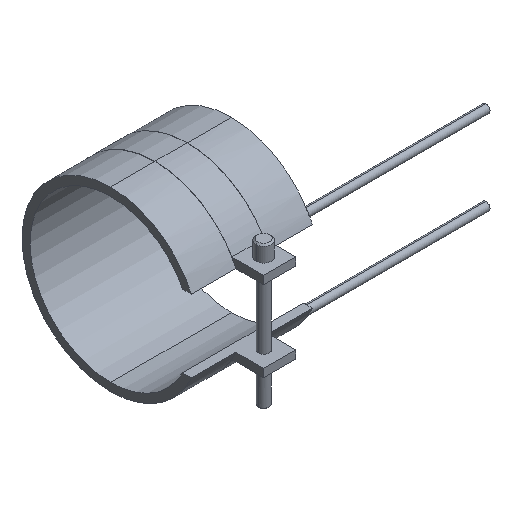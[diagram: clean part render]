
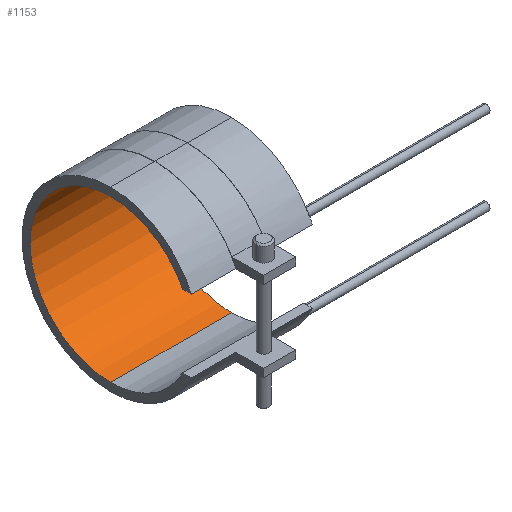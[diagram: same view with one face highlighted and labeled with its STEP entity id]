
A CAD part, isometric view. The second image highlights one B-rep face of the part: STEP entity #1153.
In plain terms, the highlighted cylindrical face has radius 40 mm (diameter 80 mm), a partial arc.
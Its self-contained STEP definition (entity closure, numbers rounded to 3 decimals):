
#834=CARTESIAN_POINT('Vertex',(-30.,0.,-40.)) ;
#841=CARTESIAN_POINT('Vertex',(30.,0.,-40.)) ;
#844=CARTESIAN_POINT('Line Origine',(30.,0.,-40.)) ;
#862=CARTESIAN_POINT('Axis2P3D Location',(-30.,0.,0.)) ;
#866=CARTESIAN_POINT('Vertex',(-30.,0.,40.)) ;
#923=CARTESIAN_POINT('Vertex',(30.,0.,40.)) ;
#933=CARTESIAN_POINT('Line Origine',(30.,0.,40.)) ;
#1024=CARTESIAN_POINT('Axis2P3D Location',(30.,0.,0.)) ;
#1142=CARTESIAN_POINT('Axis2P3D Location',(30.,0.,0.)) ;
#845=DIRECTION('Vector Direction',(1.,0.,0.)) ;
#863=DIRECTION('Axis2P3D Direction',(1.,0.,0.)) ;
#934=DIRECTION('Vector Direction',(1.,0.,0.)) ;
#1025=DIRECTION('Axis2P3D Direction',(1.,0.,0.)) ;
#1143=DIRECTION('Axis2P3D Direction',(1.,0.,-0.)) ;
#1144=DIRECTION('Axis2P3D XDirection',(0.,0.,-1.)) ;
#864=AXIS2_PLACEMENT_3D('Circle Axis2P3D',#862,#863,$) ;
#1026=AXIS2_PLACEMENT_3D('Circle Axis2P3D',#1024,#1025,$) ;
#1145=AXIS2_PLACEMENT_3D('Cylinder Axis2P3D',#1142,#1143,#1144) ;
#1148=ORIENTED_EDGE('',*,*,#1028,.T.) ;
#1149=ORIENTED_EDGE('',*,*,#937,.T.) ;
#1150=ORIENTED_EDGE('',*,*,#868,.F.) ;
#1151=ORIENTED_EDGE('',*,*,#848,.T.) ;
#846=VECTOR('Line Direction',#845,1.) ;
#935=VECTOR('Line Direction',#934,1.) ;
#1153=ADVANCED_FACE('14080060',(#1152),#1146,.F.) ;
#865=CIRCLE('generated circle',#864,40.) ;
#1027=CIRCLE('generated circle',#1026,40.) ;
#1146=CYLINDRICAL_SURFACE('generated cylinder',#1145,40.) ;
#848=EDGE_CURVE('',#835,#842,#847,.T.) ;
#868=EDGE_CURVE('',#835,#867,#865,.T.) ;
#937=EDGE_CURVE('',#924,#867,#936,.F.) ;
#1028=EDGE_CURVE('',#842,#924,#1027,.T.) ;
#1147=EDGE_LOOP('',(#1148,#1149,#1150,#1151)) ;
#1152=FACE_OUTER_BOUND('',#1147,.T.) ;
#847=LINE('Line',#844,#846) ;
#936=LINE('Line',#933,#935) ;
#835=VERTEX_POINT('',#834) ;
#842=VERTEX_POINT('',#841) ;
#867=VERTEX_POINT('',#866) ;
#924=VERTEX_POINT('',#923) ;
